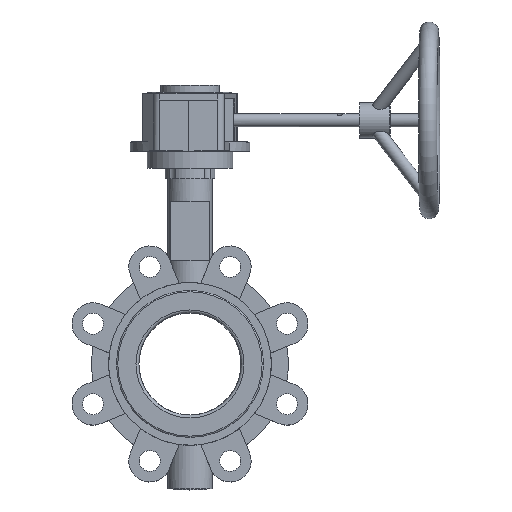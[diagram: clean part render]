
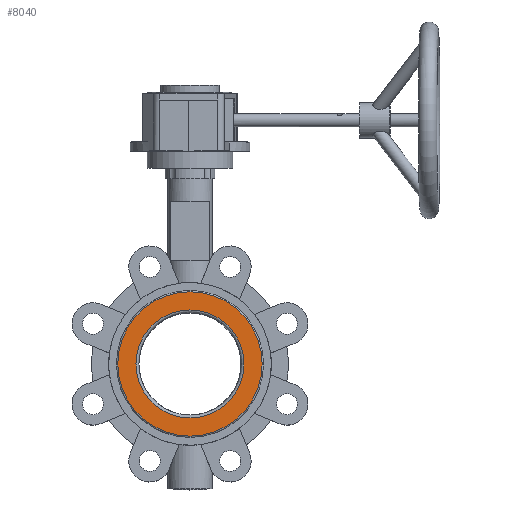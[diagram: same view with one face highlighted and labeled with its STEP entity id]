
A CAD part, top view. The second image highlights one B-rep face of the part: STEP entity #8040.
In plain terms, the highlighted planar face has unit normal (0, 0, 1) as drawn and (-1, 0, 0) by its records, which use the part's own axes.
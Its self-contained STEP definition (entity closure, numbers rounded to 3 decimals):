
#196 = CARTESIAN_POINT ( 'NONE',  ( -25., 0., 0. ) ) ;
#345 = FACE_OUTER_BOUND ( 'NONE', #10823, .T. ) ;
#527 = EDGE_LOOP ( 'NONE', ( #7525 ) ) ;
#1166 = AXIS2_PLACEMENT_3D ( 'NONE', #196, #9440, #3655 ) ;
#1168 = ORIENTED_EDGE ( 'NONE', *, *, #6324, .T. ) ;
#1940 = AXIS2_PLACEMENT_3D ( 'NONE', #8766, #5440, #3796 ) ;
#3655 = DIRECTION ( 'NONE',  ( 0., 0., -1. ) ) ;
#3796 = DIRECTION ( 'NONE',  ( 0., 0., 1. ) ) ;
#4414 = CIRCLE ( 'NONE', #5388, 55. ) ;
#4478 = DIRECTION ( 'NONE',  ( -1., 0., 0. ) ) ;
#5388 = AXIS2_PLACEMENT_3D ( 'NONE', #5435, #4478, #10445 ) ;
#5435 = CARTESIAN_POINT ( 'NONE',  ( -25., 0., 0. ) ) ;
#5440 = DIRECTION ( 'NONE',  ( -1., 0., 0. ) ) ;
#5526 = CIRCLE ( 'NONE', #1940, 41.14 ) ;
#6324 = EDGE_CURVE ( 'NONE', #8682, #8682, #4414, .T. ) ;
#7015 = FACE_BOUND ( 'NONE', #527, .T. ) ;
#7525 = ORIENTED_EDGE ( 'NONE', *, *, #8287, .F. ) ;
#7640 = PLANE ( 'NONE',  #1166 ) ;
#7776 = VERTEX_POINT ( 'NONE', #9494 ) ;
#8040 = ADVANCED_FACE ( 'NONE', ( #7015, #345 ), #7640, .F. ) ;
#8287 = EDGE_CURVE ( 'NONE', #7776, #7776, #5526, .T. ) ;
#8682 = VERTEX_POINT ( 'NONE', #9062 ) ;
#8766 = CARTESIAN_POINT ( 'NONE',  ( -25., 0., 0. ) ) ;
#9062 = CARTESIAN_POINT ( 'NONE',  ( -25., 0., 55. ) ) ;
#9440 = DIRECTION ( 'NONE',  ( 1., 0., 0. ) ) ;
#9494 = CARTESIAN_POINT ( 'NONE',  ( -25., 0., 41.14 ) ) ;
#10445 = DIRECTION ( 'NONE',  ( 0., 0., 1. ) ) ;
#10823 = EDGE_LOOP ( 'NONE', ( #1168 ) ) ;
